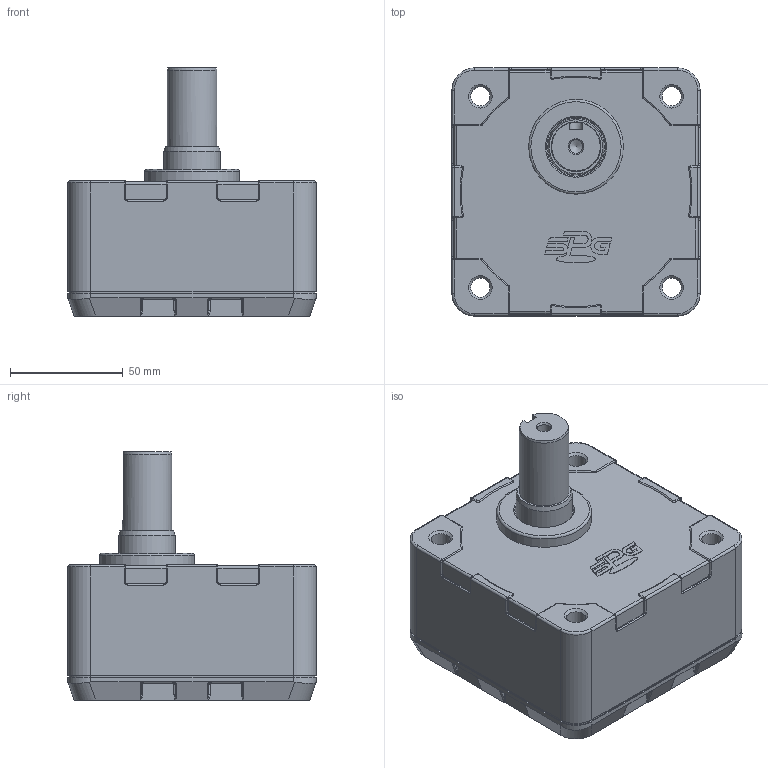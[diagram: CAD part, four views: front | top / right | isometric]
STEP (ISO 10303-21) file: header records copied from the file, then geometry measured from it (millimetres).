
FILE_DESCRIPTION((''),'2;1');
FILE_NAME('C:\Documents and Settings\Administrator\바탕 화면\BLDC 3D FILE\GEAR HEAD ASS''Y\60\XTG105K~XTG1020K.stp','2014-06-19T12:47:53',('kdhkdh'),(''),'Autodesk Inventor 2011','Autodesk Inventor 2011','');
FILE_SCHEMA(('AUTOMOTIVE_DESIGN { 1 0 10303 214 1 1 1 1 }'));
Length unit declared in the file: millimetre
Products named in the file (1): 부품6
Bounding box: 110 x 110 x 110 mm (x, y, z)
Volume: 459568.8 mm3; surface area: 89656.2 mm2
Topology: 1 solids, 1 shells, 481 faces, 1195 edges, 741 vertices
Faces by surface type: cylinder 185, plane 156, torus 60, bspline 53, cone 27
Full cylindrical faces by diameter (mm): 4 x4, 4.5 x4, 6 x1, 8 x4, 8.5 x4, 9.5 x4, 13 x1, 22 x1, 25 x2, 26 x1, 42 x1, 94 x1
Entity records: 15843 total; most frequent: CARTESIAN_POINT 4553, DIRECTION 2482, ORIENTED_EDGE 2242, EDGE_CURVE 1121, AXIS2_PLACEMENT_3D 992, VERTEX_POINT 722, EDGE_LOOP 569, VECTOR 498
